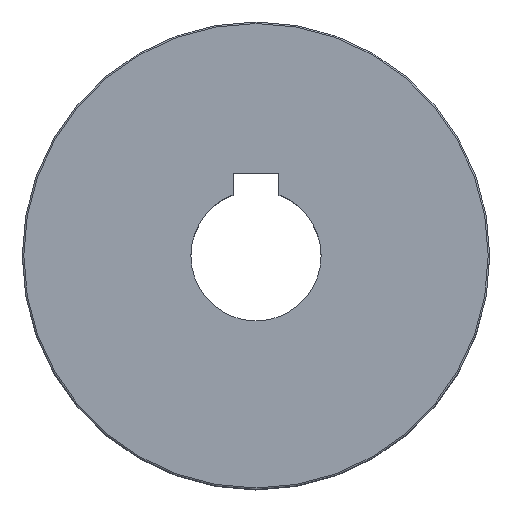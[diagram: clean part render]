
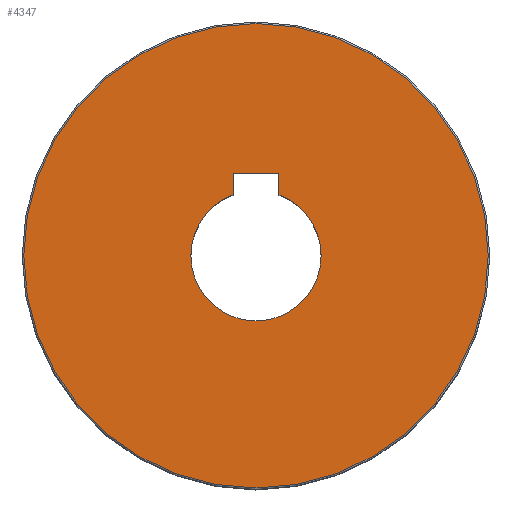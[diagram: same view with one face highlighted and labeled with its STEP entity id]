
A CAD part, top view. The second image highlights one B-rep face of the part: STEP entity #4347.
In plain terms, the highlighted planar face has unit normal (0, 0, 1).
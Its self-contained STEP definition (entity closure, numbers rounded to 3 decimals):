
#71 = DIRECTION ( 'NONE',  ( 1., 0., 0. ) ) ;
#153 = DIRECTION ( 'NONE',  ( 1., 0., 0. ) ) ;
#280 = DIRECTION ( 'NONE',  ( 0., -1., 0. ) ) ;
#474 = CARTESIAN_POINT ( 'NONE',  ( 3., 7.953, 36. ) ) ;
#514 = CIRCLE ( 'NONE', #7350, 8.5 ) ;
#621 = DIRECTION ( 'NONE',  ( 0., 0., -1. ) ) ;
#759 = AXIS2_PLACEMENT_3D ( 'NONE', #11902, #9887, #8875 ) ;
#780 = CARTESIAN_POINT ( 'NONE',  ( 30.3, 0., 36. ) ) ;
#814 = VERTEX_POINT ( 'NONE', #7768 ) ;
#1334 = CARTESIAN_POINT ( 'NONE',  ( 0., 0., 36. ) ) ;
#1928 = VERTEX_POINT ( 'NONE', #3870 ) ;
#2079 = VERTEX_POINT ( 'NONE', #7756 ) ;
#2097 = ORIENTED_EDGE ( 'NONE', *, *, #11137, .T. ) ;
#2252 = DIRECTION ( 'NONE',  ( 0., 0., 1. ) ) ;
#2550 = LINE ( 'NONE', #474, #8606 ) ;
#2611 = CARTESIAN_POINT ( 'NONE',  ( -3., 7.953, 36. ) ) ;
#2678 = LINE ( 'NONE', #2611, #9495 ) ;
#2689 = ORIENTED_EDGE ( 'NONE', *, *, #11715, .T. ) ;
#2823 = AXIS2_PLACEMENT_3D ( 'NONE', #7456, #2252, #4251 ) ;
#2855 = VERTEX_POINT ( 'NONE', #5248 ) ;
#3870 = CARTESIAN_POINT ( 'NONE',  ( -3., 7.953, 36. ) ) ;
#4066 = EDGE_CURVE ( 'NONE', #2079, #9081, #2550, .T. ) ;
#4251 = DIRECTION ( 'NONE',  ( 1., 0., 0. ) ) ;
#4337 = DIRECTION ( 'NONE',  ( 0., 0., 1. ) ) ;
#4347 = ADVANCED_FACE ( 'NONE', ( #9427, #6415 ), #9681, .T. ) ;
#4797 = CARTESIAN_POINT ( 'NONE',  ( -3., 10.753, 36. ) ) ;
#4949 = CIRCLE ( 'NONE', #2823, 30.3 ) ;
#5248 = CARTESIAN_POINT ( 'NONE',  ( -30.3, 0., 36. ) ) ;
#5301 = CARTESIAN_POINT ( 'NONE',  ( 3., 10.753, 36. ) ) ;
#5347 = VERTEX_POINT ( 'NONE', #4797 ) ;
#5637 = CIRCLE ( 'NONE', #6279, 8.5 ) ;
#6089 = ORIENTED_EDGE ( 'NONE', *, *, #7482, .T. ) ;
#6096 = DIRECTION ( 'NONE',  ( 0., 0., 1. ) ) ;
#6279 = AXIS2_PLACEMENT_3D ( 'NONE', #13072, #621, #7907 ) ;
#6415 = FACE_BOUND ( 'NONE', #12705, .T. ) ;
#6675 = EDGE_LOOP ( 'NONE', ( #12603, #10784 ) ) ;
#6869 = ORIENTED_EDGE ( 'NONE', *, *, #4066, .T. ) ;
#7004 = VERTEX_POINT ( 'NONE', #12966 ) ;
#7350 = AXIS2_PLACEMENT_3D ( 'NONE', #11125, #11396, #8042 ) ;
#7456 = CARTESIAN_POINT ( 'NONE',  ( 0., 0., 36. ) ) ;
#7482 = EDGE_CURVE ( 'NONE', #5347, #2079, #10255, .T. ) ;
#7756 = CARTESIAN_POINT ( 'NONE',  ( 3., 10.753, 36. ) ) ;
#7768 = CARTESIAN_POINT ( 'NONE',  ( -8.5, 0., 36. ) ) ;
#7824 = DIRECTION ( 'NONE',  ( 0., 1., 0. ) ) ;
#7907 = DIRECTION ( 'NONE',  ( 1., 0., 0. ) ) ;
#8042 = DIRECTION ( 'NONE',  ( 1., 0., 0. ) ) ;
#8165 = AXIS2_PLACEMENT_3D ( 'NONE', #11188, #6096, #71 ) ;
#8606 = VECTOR ( 'NONE', #280, 1000. ) ;
#8875 = DIRECTION ( 'NONE',  ( 1., 0., 0. ) ) ;
#8920 = VECTOR ( 'NONE', #153, 1000. ) ;
#9081 = VERTEX_POINT ( 'NONE', #12834 ) ;
#9234 = CIRCLE ( 'NONE', #8165, 30.3 ) ;
#9427 = FACE_OUTER_BOUND ( 'NONE', #6675, .T. ) ;
#9495 = VECTOR ( 'NONE', #7824, 1000. ) ;
#9681 = PLANE ( 'NONE',  #10115 ) ;
#9887 = DIRECTION ( 'NONE',  ( 0., 0., -1. ) ) ;
#10115 = AXIS2_PLACEMENT_3D ( 'NONE', #1334, #4337, #10814 ) ;
#10255 = LINE ( 'NONE', #5301, #8920 ) ;
#10784 = ORIENTED_EDGE ( 'NONE', *, *, #12968, .T. ) ;
#10814 = DIRECTION ( 'NONE',  ( 1., 0., 0. ) ) ;
#11125 = CARTESIAN_POINT ( 'NONE',  ( 0., 0., 36. ) ) ;
#11137 = EDGE_CURVE ( 'NONE', #814, #1928, #12312, .T. ) ;
#11188 = CARTESIAN_POINT ( 'NONE',  ( 0., 0., 36. ) ) ;
#11396 = DIRECTION ( 'NONE',  ( 0., 0., -1. ) ) ;
#11499 = ORIENTED_EDGE ( 'NONE', *, *, #11652, .T. ) ;
#11652 = EDGE_CURVE ( 'NONE', #7004, #814, #5637, .T. ) ;
#11715 = EDGE_CURVE ( 'NONE', #9081, #7004, #514, .T. ) ;
#11857 = EDGE_CURVE ( 'NONE', #1928, #5347, #2678, .T. ) ;
#11894 = ORIENTED_EDGE ( 'NONE', *, *, #11857, .T. ) ;
#11902 = CARTESIAN_POINT ( 'NONE',  ( 0., 0., 36. ) ) ;
#12312 = CIRCLE ( 'NONE', #759, 8.5 ) ;
#12603 = ORIENTED_EDGE ( 'NONE', *, *, #13258, .T. ) ;
#12705 = EDGE_LOOP ( 'NONE', ( #6089, #6869, #2689, #11499, #2097, #11894 ) ) ;
#12830 = VERTEX_POINT ( 'NONE', #780 ) ;
#12834 = CARTESIAN_POINT ( 'NONE',  ( 3., 7.953, 36. ) ) ;
#12966 = CARTESIAN_POINT ( 'NONE',  ( 8.5, 0., 36. ) ) ;
#12968 = EDGE_CURVE ( 'NONE', #2855, #12830, #4949, .T. ) ;
#13072 = CARTESIAN_POINT ( 'NONE',  ( 0., 0., 36. ) ) ;
#13258 = EDGE_CURVE ( 'NONE', #12830, #2855, #9234, .T. ) ;
